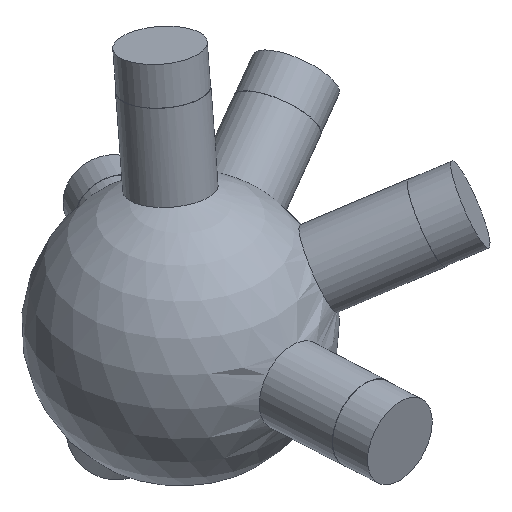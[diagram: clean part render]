
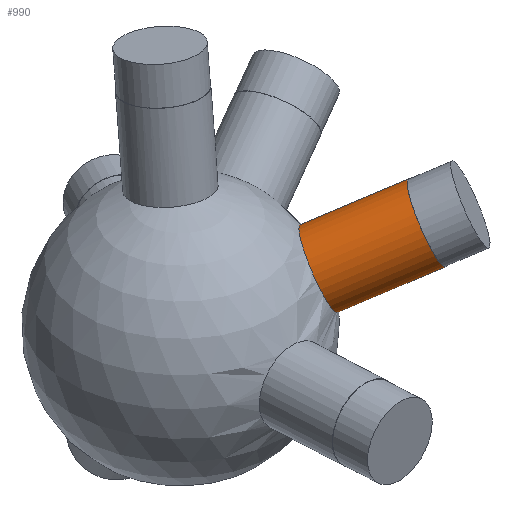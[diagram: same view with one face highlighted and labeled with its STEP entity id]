
A CAD part, isometric view. The second image highlights one B-rep face of the part: STEP entity #990.
In plain terms, the highlighted cylindrical face has radius 6 mm (diameter 12 mm), a full revolution.
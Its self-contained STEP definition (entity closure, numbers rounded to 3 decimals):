
#33 = SPHERICAL_SURFACE('',#34,20.);
#34 = AXIS2_PLACEMENT_3D('',#35,#36,#37);
#35 = CARTESIAN_POINT('',(0.,0.,0.));
#36 = DIRECTION('',(0.,0.,1.));
#37 = DIRECTION('',(1.,0.,-0.));
#629 = EDGE_CURVE('',#630,#630,#632,.T.);
#630 = VERTEX_POINT('',#631);
#631 = CARTESIAN_POINT('',(17.315,-6.347,7.739
    ));
#632 = SURFACE_CURVE('',#633,(#638,#700),.PCURVE_S1.);
#633 = CIRCLE('',#634,6.);
#634 = AXIS2_PLACEMENT_3D('',#635,#636,#637);
#635 = CARTESIAN_POINT('',(13.53,-11.002,7.739
    ));
#636 = DIRECTION('',(0.709,-0.577,0.406));
#637 = DIRECTION('',(0.631,0.776,0.)
  );
#638 = PCURVE('',#33,#639);
#639 = DEFINITIONAL_REPRESENTATION('',(#640),#699);
#640 = B_SPLINE_CURVE_WITH_KNOTS('',8,(#641,#642,#643,#644,#645,#646,
    #647,#648,#649,#650,#651,#652,#653,#654,#655,#656,#657,#658,#659,
    #660,#661,#662,#663,#664,#665,#666,#667,#668,#669,#670,#671,#672,
    #673,#674,#675,#676,#677,#678,#679,#680,#681,#682,#683,#684,#685,
    #686,#687,#688,#689,#690,#691,#692,#693,#694,#695,#696,#697,#698),
  .UNSPECIFIED.,.F.,.F.,(9,7,7,7,7,7,7,7,9),(0.,0.785,
    1.473,2.074,2.6,3.521,
    4.211,5.247,6.283),.UNSPECIFIED.);
#641 = CARTESIAN_POINT('',(5.932,0.397));
#642 = CARTESIAN_POINT('',(5.936,0.427));
#643 = CARTESIAN_POINT('',(5.937,0.456));
#644 = CARTESIAN_POINT('',(5.934,0.486));
#645 = CARTESIAN_POINT('',(5.928,0.515));
#646 = CARTESIAN_POINT('',(5.918,0.544));
#647 = CARTESIAN_POINT('',(5.904,0.571));
#648 = CARTESIAN_POINT('',(5.886,0.596));
#649 = CARTESIAN_POINT('',(5.845,0.64));
#650 = CARTESIAN_POINT('',(5.823,0.659));
#651 = CARTESIAN_POINT('',(5.797,0.676));
#652 = CARTESIAN_POINT('',(5.77,0.69));
#653 = CARTESIAN_POINT('',(5.739,0.702));
#654 = CARTESIAN_POINT('',(5.707,0.711));
#655 = CARTESIAN_POINT('',(5.674,0.718));
#656 = CARTESIAN_POINT('',(5.61,0.723));
#657 = CARTESIAN_POINT('',(5.58,0.724));
#658 = CARTESIAN_POINT('',(5.549,0.722));
#659 = CARTESIAN_POINT('',(5.52,0.717));
#660 = CARTESIAN_POINT('',(5.491,0.711));
#661 = CARTESIAN_POINT('',(5.463,0.702));
#662 = CARTESIAN_POINT('',(5.437,0.691));
#663 = CARTESIAN_POINT('',(5.393,0.667));
#664 = CARTESIAN_POINT('',(5.373,0.654));
#665 = CARTESIAN_POINT('',(5.355,0.64));
#666 = CARTESIAN_POINT('',(5.339,0.625));
#667 = CARTESIAN_POINT('',(5.325,0.609));
#668 = CARTESIAN_POINT('',(5.313,0.592));
#669 = CARTESIAN_POINT('',(5.302,0.575));
#670 = CARTESIAN_POINT('',(5.277,0.525));
#671 = CARTESIAN_POINT('',(5.267,0.491));
#672 = CARTESIAN_POINT('',(5.262,0.456));
#673 = CARTESIAN_POINT('',(5.262,0.421));
#674 = CARTESIAN_POINT('',(5.267,0.387));
#675 = CARTESIAN_POINT('',(5.276,0.353));
#676 = CARTESIAN_POINT('',(5.289,0.32));
#677 = CARTESIAN_POINT('',(5.318,0.267));
#678 = CARTESIAN_POINT('',(5.333,0.245));
#679 = CARTESIAN_POINT('',(5.349,0.224));
#680 = CARTESIAN_POINT('',(5.367,0.205));
#681 = CARTESIAN_POINT('',(5.387,0.188));
#682 = CARTESIAN_POINT('',(5.408,0.172));
#683 = CARTESIAN_POINT('',(5.431,0.158));
#684 = CARTESIAN_POINT('',(5.489,0.13));
#685 = CARTESIAN_POINT('',(5.527,0.117));
#686 = CARTESIAN_POINT('',(5.566,0.11));
#687 = CARTESIAN_POINT('',(5.606,0.108));
#688 = CARTESIAN_POINT('',(5.645,0.111));
#689 = CARTESIAN_POINT('',(5.684,0.12));
#690 = CARTESIAN_POINT('',(5.721,0.133));
#691 = CARTESIAN_POINT('',(5.79,0.17));
#692 = CARTESIAN_POINT('',(5.823,0.193));
#693 = CARTESIAN_POINT('',(5.852,0.22));
#694 = CARTESIAN_POINT('',(5.877,0.251));
#695 = CARTESIAN_POINT('',(5.899,0.285));
#696 = CARTESIAN_POINT('',(5.915,0.321));
#697 = CARTESIAN_POINT('',(5.926,0.359));
#698 = CARTESIAN_POINT('',(5.932,0.397));
#699 = ( GEOMETRIC_REPRESENTATION_CONTEXT(2) 
PARAMETRIC_REPRESENTATION_CONTEXT() REPRESENTATION_CONTEXT('2D SPACE',''
  ) );
#700 = PCURVE('',#701,#706);
#701 = CYLINDRICAL_SURFACE('',#702,6.);
#702 = AXIS2_PLACEMENT_3D('',#703,#704,#705);
#703 = CARTESIAN_POINT('',(0.,0.,0.));
#704 = DIRECTION('',(0.709,-0.577,0.406));
#705 = DIRECTION('',(0.631,0.776,0.)
  );
#706 = DEFINITIONAL_REPRESENTATION('',(#707),#711);
#707 = LINE('',#708,#709);
#708 = CARTESIAN_POINT('',(0.,19.079));
#709 = VECTOR('',#710,1.);
#710 = DIRECTION('',(1.,0.));
#711 = ( GEOMETRIC_REPRESENTATION_CONTEXT(2) 
PARAMETRIC_REPRESENTATION_CONTEXT() REPRESENTATION_CONTEXT('2D SPACE',''
  ) );
#990 = ADVANCED_FACE('',(#991),#701,.T.);
#991 = FACE_BOUND('',#992,.T.);
#992 = EDGE_LOOP('',(#993,#1016,#1043,#1044));
#993 = ORIENTED_EDGE('',*,*,#994,.T.);
#994 = EDGE_CURVE('',#630,#995,#997,.T.);
#995 = VERTEX_POINT('',#996);
#996 = CARTESIAN_POINT('',(27.891,-14.948,
    13.789));
#997 = SEAM_CURVE('',#998,(#1002,#1009),.PCURVE_S1.);
#998 = LINE('',#999,#1000);
#999 = CARTESIAN_POINT('',(3.786,4.655,
    0.));
#1000 = VECTOR('',#1001,1.);
#1001 = DIRECTION('',(0.709,-0.577,0.406));
#1002 = PCURVE('',#701,#1003);
#1003 = DEFINITIONAL_REPRESENTATION('',(#1004),#1008);
#1004 = LINE('',#1005,#1006);
#1005 = CARTESIAN_POINT('',(6.283,-0.));
#1006 = VECTOR('',#1007,1.);
#1007 = DIRECTION('',(0.,1.));
#1008 = ( GEOMETRIC_REPRESENTATION_CONTEXT(2) 
PARAMETRIC_REPRESENTATION_CONTEXT() REPRESENTATION_CONTEXT('2D SPACE',''
  ) );
#1009 = PCURVE('',#701,#1010);
#1010 = DEFINITIONAL_REPRESENTATION('',(#1011),#1015);
#1011 = LINE('',#1012,#1013);
#1012 = CARTESIAN_POINT('',(0.,-0.));
#1013 = VECTOR('',#1014,1.);
#1014 = DIRECTION('',(0.,1.));
#1015 = ( GEOMETRIC_REPRESENTATION_CONTEXT(2) 
PARAMETRIC_REPRESENTATION_CONTEXT() REPRESENTATION_CONTEXT('2D SPACE',''
  ) );
#1016 = ORIENTED_EDGE('',*,*,#1017,.F.);
#1017 = EDGE_CURVE('',#995,#995,#1018,.T.);
#1018 = SURFACE_CURVE('',#1019,(#1024,#1031),.PCURVE_S1.);
#1019 = CIRCLE('',#1020,6.);
#1020 = AXIS2_PLACEMENT_3D('',#1021,#1022,#1023);
#1021 = CARTESIAN_POINT('',(24.106,-19.603,
    13.789));
#1022 = DIRECTION('',(0.709,-0.577,0.406));
#1023 = DIRECTION('',(0.631,0.776,0.)
  );
#1024 = PCURVE('',#701,#1025);
#1025 = DEFINITIONAL_REPRESENTATION('',(#1026),#1030);
#1026 = LINE('',#1027,#1028);
#1027 = CARTESIAN_POINT('',(0.,33.993));
#1028 = VECTOR('',#1029,1.);
#1029 = DIRECTION('',(1.,0.));
#1030 = ( GEOMETRIC_REPRESENTATION_CONTEXT(2) 
PARAMETRIC_REPRESENTATION_CONTEXT() REPRESENTATION_CONTEXT('2D SPACE',''
  ) );
#1031 = PCURVE('',#1032,#1037);
#1032 = PLANE('',#1033);
#1033 = AXIS2_PLACEMENT_3D('',#1034,#1035,#1036);
#1034 = CARTESIAN_POINT('',(24.106,-19.603,
    13.789));
#1035 = DIRECTION('',(0.709,-0.577,0.406));
#1036 = DIRECTION('',(0.631,0.776,0.)
  );
#1037 = DEFINITIONAL_REPRESENTATION('',(#1038),#1042);
#1038 = CIRCLE('',#1039,6.);
#1039 = AXIS2_PLACEMENT_2D('',#1040,#1041);
#1040 = CARTESIAN_POINT('',(0.,0.));
#1041 = DIRECTION('',(1.,0.));
#1042 = ( GEOMETRIC_REPRESENTATION_CONTEXT(2) 
PARAMETRIC_REPRESENTATION_CONTEXT() REPRESENTATION_CONTEXT('2D SPACE',''
  ) );
#1043 = ORIENTED_EDGE('',*,*,#994,.F.);
#1044 = ORIENTED_EDGE('',*,*,#629,.T.);
